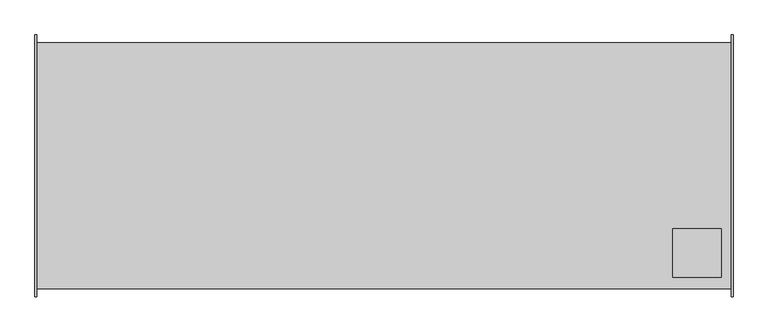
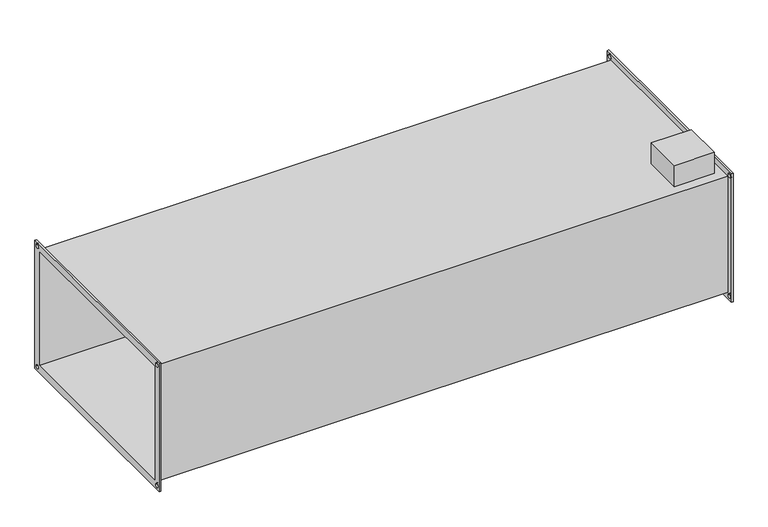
"""IFC4 building model written with IfcOpenShell, lengths in millimetres: proxy geometry."""

import ifcopenshell
import ifcopenshell.guid

model = None  # the IFC model being written
_history = None  # IfcOwnerHistory: only IFC2X3 demands one
_inside = {}  # id of a spatial element -> (the spatial element, [elements in it])
_under = {}  # id of a project, library or spatial element -> (it, [spatial elements below it])
_declared = {}  # id of a project -> (the project, [libraries it declares])
_typed = {}  # id of a type object -> (the type object, [elements of that type])
_made_of = {}  # id of a material, layer set ... -> (it, [elements and type objects made of it])


def new_model(schema):
    """Start an empty IFC model of exactly this schema.

    Asked for "IFC4X3", IfcOpenShell would pick the latest addendum, in which some entities
    have other attributes; the version numbers below select the first issue.
    IFC2X3 requires an IfcOwnerHistory on every rooted entity: one is made here for all.
    """
    global model, _history
    if schema == "IFC4X3":
        model = ifcopenshell.file(schema_version=(4, 3, 0, 0))
    else:
        model = ifcopenshell.file(schema=schema)
    _inside.clear()
    _under.clear()
    _declared.clear()
    _typed.clear()
    _made_of.clear()
    _history = None
    if model.schema == "IFC2X3":
        org = make("IfcOrganization", Name="unknown")
        user = make(
            "IfcPersonAndOrganization",
            ThePerson=make("IfcPerson", FamilyName="unknown"),
            TheOrganization=org,
        )
        app = make(
            "IfcApplication",
            ApplicationDeveloper=org,
            Version="unknown",
            ApplicationFullName="unknown",
            ApplicationIdentifier="unknown",
        )
        _history = make(
            "IfcOwnerHistory",
            OwningUser=user,
            OwningApplication=app,
            ChangeAction="ADDED",
            CreationDate=0,
        )
    return model


def make(cls, **values):
    """One entity of the class cls with the attributes given. An attribute that is None is left unset."""
    return model.create_entity(
        cls, **{name: value for name, value in values.items() if value is not None}
    )


def rooted(cls, **values):
    """An entity with a GlobalId (a new one), such as an element, a storey or a relation."""
    return make(cls, GlobalId=ifcopenshell.guid.new(), OwnerHistory=_history, **values)


def si_unit(unit_type, name, prefix=None):
    """IfcSIUnit, for example si_unit("LENGTHUNIT", "METRE", prefix="MILLI")."""
    return make("IfcSIUnit", UnitType=unit_type, Prefix=prefix, Name=name)


def assignment(units):
    """IfcUnitAssignment: the units of a project."""
    return None if units is None else make("IfcUnitAssignment", Units=units)


def point(xyz):
    """IfcCartesianPoint."""
    return None if xyz is None else make("IfcCartesianPoint", Coordinates=xyz)


def direction(xyz):
    """IfcDirection."""
    return None if xyz is None else make("IfcDirection", DirectionRatios=xyz)


def frame(location, z_axis=None, x_axis=None):
    """IfcAxis2Placement3D, a coordinate frame: its origin and axes. An axis left out is left unset."""
    return make(
        "IfcAxis2Placement3D",
        Location=point(location),
        Axis=direction(z_axis),
        RefDirection=direction(x_axis),
    )


def origin():
    """The frame at (0, 0, 0) with its axes left unset."""
    return frame((0.0, 0.0, 0.0))


def place(relative_to, where):
    """IfcLocalPlacement: puts the frame where relative to a parent placement (None: the world)."""
    return make(
        "IfcLocalPlacement", PlacementRelTo=relative_to, RelativePlacement=where
    )


def context(
    kind, dimensions, precision=None, world=None, true_north=None, identifier=None
):
    """IfcGeometricRepresentationContext, for example the 3D "Model" context."""
    return make(
        "IfcGeometricRepresentationContext",
        ContextIdentifier=identifier,
        ContextType=kind,
        CoordinateSpaceDimension=dimensions,
        Precision=precision,
        WorldCoordinateSystem=world,
        TrueNorth=true_north,
    )


def project(units=None, contexts=None):
    """IfcProject with its units and contexts."""
    return rooted(
        "IfcProject",
        Name="project",
        RepresentationContexts=contexts,
        UnitsInContext=assignment(units),
    )


def spatial(cls, under=None, at=None, **own):
    """A site, building, storey or space (cls), placed at a placement, below another one or the project."""
    s = rooted(cls, ObjectPlacement=at, **own)
    if under is not None:
        _under.setdefault(under.id(), (under, []))[1].append(s)
    return s


def polyline(points):
    """IfcPolyline through the points."""
    return make("IfcPolyline", Points=[point(p) for p in points])


def circle_curve(where, radius):
    """IfcCircle in the frame where."""
    return make("IfcCircle", Position=where, Radius=radius)


def shape(context_of_items, identifier, shape_type, items):
    """IfcShapeRepresentation: the items that make up one representation, for example the "Body"."""
    return make(
        "IfcShapeRepresentation",
        ContextOfItems=context_of_items,
        RepresentationIdentifier=identifier,
        RepresentationType=shape_type,
        Items=items,
    )


def source(mapping_origin, context_of_items, identifier, shape_type, items):
    """IfcRepresentationMap: a shape defined once, which mapped items show again and again."""
    return make(
        "IfcRepresentationMap",
        MappingOrigin=mapping_origin,
        MappedRepresentation=shape(context_of_items, identifier, shape_type, items),
    )


def transform(
    local_origin,
    x_axis=None,
    y_axis=None,
    z_axis=None,
    scale=None,
    scale2=None,
    scale3=None,
    uniform=True,
):
    """IfcCartesianTransformationOperator3D, or its non-uniform kind. x_axis, y_axis, z_axis: its Axis1, 2, 3."""
    if uniform:
        return make(
            "IfcCartesianTransformationOperator3D",
            Axis1=direction(x_axis),
            Axis2=direction(y_axis),
            LocalOrigin=point(local_origin),
            Scale=scale,
            Axis3=direction(z_axis),
        )
    return make(
        "IfcCartesianTransformationOperator3DnonUniform",
        Axis1=direction(x_axis),
        Axis2=direction(y_axis),
        LocalOrigin=point(local_origin),
        Scale=scale,
        Axis3=direction(z_axis),
        Scale2=scale2,
        Scale3=scale3,
    )


def mapped(mapping_source, mapping_target):
    """IfcMappedItem: shows the shape of a source again, moved by a transform."""
    return make(
        "IfcMappedItem", MappingSource=mapping_source, MappingTarget=mapping_target
    )


def made_of(thing, what):
    """Note that an element or type object is made of a material, layer set ...; save() writes the relation."""
    if what is not None:
        _made_of.setdefault(what.id(), (what, []))[1].append(thing)
    return thing


def element(
    cls,
    number,
    at=None,
    inside=None,
    cuts=None,
    type_object=None,
    material=None,
    context=None,
    identifier="Body",
    shape_type=None,
    held_by="IfcProductDefinitionShape",
    body=None,
    shapes=None,
    **own,
):
    """One element of the class cls, such as IfcWall. Its Tag is "e" and its number.

    at: its placement. inside: the storey or other place that contains it. cuts: it is an
    opening in that element (IfcRelVoidsElement). A single representation is given by context,
    identifier, shape_type and body (its items); several are given by shapes. held_by: the class
    of the entity that holds the representations. save() writes the other relations.
    """
    e = rooted(cls, Tag="e%d" % number, ObjectPlacement=at, **own)
    if body is not None:
        shapes = [shape(context, identifier, shape_type, body)]
    if shapes is not None:
        e.Representation = make(held_by, Representations=shapes)
    if inside is not None:
        _inside.setdefault(inside.id(), (inside, []))[1].append(e)
    if cuts is not None:
        rooted(
            "IfcRelVoidsElement", RelatingBuildingElement=cuts, RelatedOpeningElement=e
        )
    if type_object is not None:
        _typed.setdefault(type_object.id(), (type_object, []))[1].append(e)
    return made_of(e, material)


def aggregate(whole, parts):
    """IfcRelAggregates: a whole, such as a stair, and the parts it consists of."""
    return rooted("IfcRelAggregates", RelatingObject=whole, RelatedObjects=parts)


def save(model, path):
    """Write the relations noted so far, then the file.

    IfcRelAggregates (storeys below a building ...), IfcRelContainedInSpatialStructure (elements
    in a storey), IfcRelDefinesByType, IfcRelAssociatesMaterial and IfcRelDeclares: one each for
    every whole, place, type object, material and project.
    """
    for whole, parts in _under.values():
        aggregate(whole, parts)
    for where, things in _inside.values():
        rooted(
            "IfcRelContainedInSpatialStructure",
            RelatedElements=things,
            RelatingStructure=where,
        )
    for kind, things in _typed.values():
        rooted("IfcRelDefinesByType", RelatedObjects=things, RelatingType=kind)
    for what, things in _made_of.values():
        rooted("IfcRelAssociatesMaterial", RelatedObjects=things, RelatingMaterial=what)
    for by, libraries in _declared.values():
        rooted("IfcRelDeclares", RelatingContext=by, RelatedDefinitions=libraries)
    model.write(path)


def plane_surface(at):
    """IfcPlane: the flat surface through the origin of the frame at, square to its z axis."""
    return make("IfcPlane", Position=at)


def revolved_surface(curve, axis_point, axis_direction):
    """IfcSurfaceOfRevolution: the curve turned about the line through axis_point along axis_direction."""
    return make(
        "IfcSurfaceOfRevolution",
        SweptCurve=make("IfcArbitraryOpenProfileDef", ProfileType="CURVE", Curve=curve),
        AxisPosition=make("IfcAxis1Placement", Location=point(axis_point), Axis=direction(axis_direction)),
    )


def advanced_brep(points, edges, surfaces, faces):
    """IfcAdvancedBrep: a solid bounded by faces that lie on surfaces and meet in shared edges.

    An edge is (start, end): straight between two places in points (the first is 0);
    or (start, end, curve); or (start, end, curve, False) where it runs against its curve.
    A face is (place in surfaces, loops), or (place, loops, False) where it looks against
    its surface's normal. A loop lists edges by number (the first is 1), with a minus sign
    where the edge is run from its end to its start. The first loop is the outer one.
    """
    corners = [point(p) for p in points]
    vertices = [make("IfcVertexPoint", VertexGeometry=c) for c in corners]
    made = []
    for start, end, *more in edges:
        made.append(
            make(
                "IfcEdgeCurve",
                EdgeStart=vertices[start],
                EdgeEnd=vertices[end],
                EdgeGeometry=more[0] if more else make("IfcPolyline", Points=[corners[start], corners[end]]),
                SameSense=more[1] if len(more) > 1 else True,
            )
        )
    hull = []
    for where, loops, *sense in faces:
        bounds = []
        for j, loop in enumerate(loops):
            ring = [make("IfcOrientedEdge", EdgeElement=made[abs(k) - 1], Orientation=k > 0) for k in loop]
            bounds.append(
                make(
                    "IfcFaceOuterBound" if j == 0 else "IfcFaceBound",
                    Bound=make("IfcEdgeLoop", EdgeList=ring),
                    Orientation=True,
                )
            )
        hull.append(make("IfcAdvancedFace", Bounds=bounds, FaceSurface=surfaces[where], SameSense=sense[0] if sense else True))
    return make("IfcAdvancedBrep", Outer=make("IfcClosedShell", CfsFaces=hull))


def mechanical_equipment_c1b69434(model_context):
    return source(origin(), model_context, "Body", "AdvancedBrep", [
        advanced_brep(
        [(716.0, -254.0, 154.0), (-716.0, -254.0, 154.0), (-716.0, -254.0, -154.0), (716.0, -254.0, -154.0), (-716.0, 254.0, -154.0), (716.0, 254.0, -154.0), (-716.0, 254.0, 154.0), (716.0, 254.0, 154.0), (596.0, -130.0, 154.0), (696.0, -130.0, 154.0), (696.0, -230.0, 154.0), (596.0, -230.0, 154.0), (696.0, -130.0, 210.0), (596.0, -130.0, 210.0), (596.0, -230.0, 210.0), (696.0, -230.0, 210.0), (-720.0, -270.0, 170.0), (-720.0, 270.0, 170.0), (-720.0, 270.0, -170.0), (-720.0, -270.0, -170.0), (-720.0, -250.0, 150.0), (-720.0, -250.0, -150.0), (-720.0, 250.0, -150.0), (-720.0, 250.0, 150.0), (-720.0, -265.0, 160.0), (-720.0, -255.0, 160.0), (-720.0, -265.0, -160.0), (-720.0, -255.0, -160.0), (-720.0, 255.0, -160.0), (-720.0, 265.0, -160.0), (-720.0, 255.0, 160.0), (-720.0, 265.0, 160.0), (-716.0, -270.0, 170.0), (-716.0, -270.0, -170.0), (-716.0, 270.0, -170.0), (-716.0, 270.0, 170.0), (-716.0, -255.0, 160.0), (-716.0, -265.0, 160.0), (-716.0, -255.0, -160.0), (-716.0, -265.0, -160.0), (-716.0, 265.0, -160.0), (-716.0, 255.0, -160.0), (-716.0, 265.0, 160.0), (-716.0, 255.0, 160.0), (716.0, 270.0, 170.0), (716.0, 270.0, -170.0), (716.0, -270.0, -170.0), (716.0, -270.0, 170.0), (716.0, -265.0, 160.0), (716.0, -255.0, 160.0), (716.0, -265.0, -160.0), (716.0, -255.0, -160.0), (716.0, 255.0, -160.0), (716.0, 265.0, -160.0), (716.0, 255.0, 160.0), (716.0, 265.0, 160.0), (720.0, 270.0, 170.0), (720.0, -270.0, 170.0), (720.0, -270.0, -170.0), (720.0, 270.0, -170.0), (720.0, 250.0, 150.0), (720.0, 250.0, -150.0), (720.0, -250.0, -150.0), (720.0, -250.0, 150.0), (720.0, -255.0, 160.0), (720.0, -265.0, 160.0), (720.0, -255.0, -160.0), (720.0, -265.0, -160.0), (720.0, 265.0, -160.0), (720.0, 255.0, -160.0), (720.0, 265.0, 160.0), (720.0, 255.0, 160.0)],
        [
            (0, 1),
            (1, 2),
            (2, 3),
            (3, 0),
            (2, 4),
            (4, 5),
            (5, 3),
            (4, 6),
            (6, 7),
            (7, 5),
            (0, 7),
            (6, 1),
            (8, 9),
            (9, 10),
            (10, 11),
            (11, 8),
            (12, 13),
            (13, 14),
            (14, 15),
            (15, 12),
            (12, 9),
            (8, 13),
            (11, 14),
            (10, 15),
            (16, 17),
            (17, 18),
            (18, 19),
            (19, 16),
            (20, 21),
            (21, 22),
            (22, 23),
            (23, 20),
            (24, 25, circle_curve(frame((-720.0, -260.0, 160.0), z_axis=(1.0, 0.0, 0.0), x_axis=(0.0, 1.0, 0.0)), 5.0)),
            (25, 24, circle_curve(frame((-720.0, -260.0, 160.0), z_axis=(1.0, 0.0, 0.0), x_axis=(0.0, 1.0, 0.0)), 5.0)),
            (26, 27, circle_curve(frame((-720.0, -260.0, -160.0), z_axis=(1.0, 0.0, 0.0), x_axis=(0.0, 1.0, 0.0)), 5.0)),
            (27, 26, circle_curve(frame((-720.0, -260.0, -160.0), z_axis=(1.0, 0.0, 0.0), x_axis=(0.0, 1.0, 0.0)), 5.0)),
            (28, 29, circle_curve(frame((-720.0, 260.0, -160.0), z_axis=(1.0, 0.0, 0.0), x_axis=(0.0, 1.0, 0.0)), 5.0)),
            (29, 28, circle_curve(frame((-720.0, 260.0, -160.0), z_axis=(1.0, 0.0, 0.0), x_axis=(0.0, 1.0, 0.0)), 5.0)),
            (30, 31, circle_curve(frame((-720.0, 260.0, 160.0), z_axis=(1.0, 0.0, 0.0), x_axis=(0.0, 1.0, 0.0)), 5.0)),
            (31, 30, circle_curve(frame((-720.0, 260.0, 160.0), z_axis=(1.0, 0.0, 0.0), x_axis=(0.0, 1.0, 0.0)), 5.0)),
            (32, 33),
            (33, 34),
            (34, 35),
            (35, 32),
            (36, 37, circle_curve(frame((-716.0, -260.0, 160.0), z_axis=(-1.0, 0.0, 0.0), x_axis=(0.0, 1.0, 0.0)), 5.0)),
            (37, 36, circle_curve(frame((-716.0, -260.0, 160.0), z_axis=(-1.0, 0.0, 0.0), x_axis=(0.0, 1.0, 0.0)), 5.0)),
            (38, 39, circle_curve(frame((-716.0, -260.0, -160.0), z_axis=(-1.0, 0.0, 0.0), x_axis=(0.0, 1.0, 0.0)), 5.0)),
            (39, 38, circle_curve(frame((-716.0, -260.0, -160.0), z_axis=(-1.0, 0.0, 0.0), x_axis=(0.0, 1.0, 0.0)), 5.0)),
            (40, 41, circle_curve(frame((-716.0, 260.0, -160.0), z_axis=(-1.0, 0.0, 0.0), x_axis=(0.0, 1.0, 0.0)), 5.0)),
            (41, 40, circle_curve(frame((-716.0, 260.0, -160.0), z_axis=(-1.0, 0.0, 0.0), x_axis=(0.0, 1.0, 0.0)), 5.0)),
            (42, 43, circle_curve(frame((-716.0, 260.0, 160.0), z_axis=(-1.0, 0.0, 0.0), x_axis=(0.0, 1.0, 0.0)), 5.0)),
            (43, 42, circle_curve(frame((-716.0, 260.0, 160.0), z_axis=(-1.0, 0.0, 0.0), x_axis=(0.0, 1.0, 0.0)), 5.0)),
            (19, 33),
            (32, 16),
            (18, 34),
            (17, 35),
            (44, 45),
            (45, 46),
            (46, 47),
            (47, 44),
            (48, 49, circle_curve(frame((716.0, -260.0, 160.0), z_axis=(1.0, 0.0, 0.0), x_axis=(0.0, 1.0, 0.0)), 5.0)),
            (49, 48, circle_curve(frame((716.0, -260.0, 160.0), z_axis=(1.0, 0.0, 0.0), x_axis=(0.0, 1.0, 0.0)), 5.0)),
            (50, 51, circle_curve(frame((716.0, -260.0, -160.0), z_axis=(1.0, 0.0, 0.0), x_axis=(0.0, 1.0, 0.0)), 5.0)),
            (51, 50, circle_curve(frame((716.0, -260.0, -160.0), z_axis=(1.0, 0.0, 0.0), x_axis=(0.0, 1.0, 0.0)), 5.0)),
            (52, 53, circle_curve(frame((716.0, 260.0, -160.0), z_axis=(1.0, 0.0, 0.0), x_axis=(0.0, 1.0, 0.0)), 5.0)),
            (53, 52, circle_curve(frame((716.0, 260.0, -160.0), z_axis=(1.0, 0.0, 0.0), x_axis=(0.0, 1.0, 0.0)), 5.0)),
            (54, 55, circle_curve(frame((716.0, 260.0, 160.0), z_axis=(1.0, 0.0, 0.0), x_axis=(0.0, 1.0, 0.0)), 5.0)),
            (55, 54, circle_curve(frame((716.0, 260.0, 160.0), z_axis=(1.0, 0.0, 0.0), x_axis=(0.0, 1.0, 0.0)), 5.0)),
            (56, 57),
            (57, 58),
            (58, 59),
            (59, 56),
            (60, 61),
            (61, 62),
            (62, 63),
            (63, 60),
            (64, 65, circle_curve(frame((720.0, -260.0, 160.0), z_axis=(-1.0, 0.0, 0.0), x_axis=(0.0, 1.0, 0.0)), 5.0)),
            (65, 64, circle_curve(frame((720.0, -260.0, 160.0), z_axis=(-1.0, 0.0, 0.0), x_axis=(0.0, 1.0, 0.0)), 5.0)),
            (66, 67, circle_curve(frame((720.0, -260.0, -160.0), z_axis=(-1.0, 0.0, 0.0), x_axis=(0.0, 1.0, 0.0)), 5.0)),
            (67, 66, circle_curve(frame((720.0, -260.0, -160.0), z_axis=(-1.0, 0.0, 0.0), x_axis=(0.0, 1.0, 0.0)), 5.0)),
            (68, 69, circle_curve(frame((720.0, 260.0, -160.0), z_axis=(-1.0, 0.0, 0.0), x_axis=(0.0, 1.0, 0.0)), 5.0)),
            (69, 68, circle_curve(frame((720.0, 260.0, -160.0), z_axis=(-1.0, 0.0, 0.0), x_axis=(0.0, 1.0, 0.0)), 5.0)),
            (70, 71, circle_curve(frame((720.0, 260.0, 160.0), z_axis=(-1.0, 0.0, 0.0), x_axis=(0.0, 1.0, 0.0)), 5.0)),
            (71, 70, circle_curve(frame((720.0, 260.0, 160.0), z_axis=(-1.0, 0.0, 0.0), x_axis=(0.0, 1.0, 0.0)), 5.0)),
            (47, 57),
            (56, 44),
            (46, 58),
            (45, 59),
            (23, 60),
            (63, 20),
            (22, 61),
            (21, 62),
            (24, 37),
            (36, 25),
            (48, 65),
            (64, 49),
            (26, 39),
            (38, 27),
            (50, 67),
            (66, 51),
            (28, 41),
            (40, 29),
            (52, 69),
            (68, 53),
            (30, 43),
            (42, 31),
            (54, 71),
            (70, 55),
        ],
        [
            plane_surface(frame((716.0, -254.0, 154.0), z_axis=(0.0, -1.0, 0.0), x_axis=(-1.0, 0.0, 0.0))),
            plane_surface(frame((716.0, -254.0, -154.0), z_axis=(0.0, 0.0, -1.0), x_axis=(-1.0, 0.0, 0.0))),
            plane_surface(frame((716.0, 254.0, -154.0), z_axis=(0.0, 1.0, 0.0), x_axis=(-1.0, 0.0, 0.0))),
            plane_surface(frame((716.0, 254.0, 154.0), z_axis=(0.0, 0.0, 1.0), x_axis=(-1.0, 0.0, 0.0))),
            plane_surface(frame((596.0, -130.0, 210.0), z_axis=(0.0, 0.0, 1.0), x_axis=(-1.0, 0.0, 0.0))),
            plane_surface(frame((696.0, -130.0, 210.0), z_axis=(0.0, 1.0, 0.0), x_axis=(0.0, 0.0, -1.0))),
            plane_surface(frame((596.0, -130.0, 210.0), z_axis=(-1.0, 0.0, 0.0), x_axis=(0.0, 0.0, -1.0))),
            plane_surface(frame((596.0, -230.0, 210.0), z_axis=(0.0, -1.0, 0.0), x_axis=(0.0, 0.0, -1.0))),
            plane_surface(frame((696.0, -230.0, 210.0), z_axis=(1.0, 0.0, 0.0), x_axis=(0.0, 0.0, -1.0))),
            plane_surface(frame((-720.0, -270.0, 170.0), z_axis=(-1.0, 0.0, 0.0), x_axis=(0.0, 0.0, 1.0))),
            plane_surface(frame((-716.0, -270.0, 170.0), z_axis=(1.0, 0.0, 0.0), x_axis=(0.0, 0.0, -1.0))),
            plane_surface(frame((-716.0, -270.0, 170.0), z_axis=(0.0, -1.0, 0.0), x_axis=(-1.0, 0.0, 0.0))),
            plane_surface(frame((-716.0, -270.0, -170.0), z_axis=(0.0, 0.0, -1.0), x_axis=(-1.0, 0.0, 0.0))),
            plane_surface(frame((-716.0, 270.0, -170.0), z_axis=(0.0, 1.0, 0.0), x_axis=(-1.0, 0.0, 0.0))),
            plane_surface(frame((-716.0, 270.0, 170.0), z_axis=(0.0, 0.0, 1.0), x_axis=(-1.0, 0.0, 0.0))),
            plane_surface(frame((716.0, 250.0, -150.0), z_axis=(-1.0, 0.0, 0.0), x_axis=(0.0, 0.0, 1.0))),
            plane_surface(frame((720.0, 250.0, -150.0), z_axis=(1.0, 0.0, 0.0), x_axis=(0.0, 0.0, -1.0))),
            plane_surface(frame((720.0, 270.0, 170.0), z_axis=(0.0, 0.0, 1.0), x_axis=(-1.0, 0.0, 0.0))),
            plane_surface(frame((720.0, -270.0, 170.0), z_axis=(0.0, -1.0, 0.0), x_axis=(-1.0, 0.0, 0.0))),
            plane_surface(frame((720.0, -270.0, -170.0), z_axis=(0.0, 0.0, -1.0), x_axis=(-1.0, 0.0, 0.0))),
            plane_surface(frame((720.0, 270.0, -170.0), z_axis=(0.0, 1.0, 0.0), x_axis=(-1.0, 0.0, 0.0))),
            plane_surface(frame((-716.0, -250.0, 150.0), z_axis=(0.0, 0.0, -1.0), x_axis=(-1.0, 0.0, 0.0))),
            plane_surface(frame((-716.0, 250.0, 150.0), z_axis=(0.0, -1.0, 0.0), x_axis=(-1.0, 0.0, 0.0))),
            plane_surface(frame((-716.0, 250.0, -150.0), z_axis=(0.0, 0.0, 1.0), x_axis=(-1.0, 0.0, 0.0))),
            plane_surface(frame((-716.0, -250.0, -150.0), z_axis=(0.0, 1.0, 0.0), x_axis=(-1.0, 0.0, 0.0))),
            revolved_surface(polyline([(-716.0, -255.0, 160.0), (-720.0, -255.0, 160.0)]), (-720.0, -260.0, 160.0), (1.0, 0.0, 0.0)),
            revolved_surface(polyline([(720.0, -255.0, 160.0), (716.0, -255.0, 160.0)]), (-720.0, -260.0, 160.0), (1.0, 0.0, 0.0)),
            revolved_surface(polyline([(-716.0, -255.0, -160.0), (-720.0, -255.0, -160.0)]), (0.0, -260.0, -160.0), (1.0, 0.0, 0.0)),
            revolved_surface(polyline([(720.0, -255.0, -160.0), (716.0, -255.0, -160.0)]), (0.0, -260.0, -160.0), (1.0, 0.0, 0.0)),
            revolved_surface(polyline([(-716.0, 265.0, -160.0), (-720.0, 265.0, -160.0)]), (0.0, 260.0, -160.0), (1.0, 0.0, 0.0)),
            revolved_surface(polyline([(720.0, 265.0, -160.0), (716.0, 265.0, -160.0)]), (0.0, 260.0, -160.0), (1.0, 0.0, 0.0)),
            revolved_surface(polyline([(-716.0, 265.0, 160.0), (-720.0, 265.0, 160.0)]), (0.0, 260.0, 160.0), (1.0, 0.0, 0.0)),
            revolved_surface(polyline([(720.0, 265.0, 160.0), (716.0, 265.0, 160.0)]), (0.0, 260.0, 160.0), (1.0, 0.0, 0.0)),
        ],
        [
            (0, [[1, 2, 3, 4]]),
            (1, [[-3, 5, 6, 7]]),
            (2, [[-6, 8, 9, 10]]),
            (3, [[-1, 11, -9, 12], [13, 14, 15, 16]]),
            (4, [[17, 18, 19, 20]]),
            (5, [[-17, 21, -13, 22]]),
            (6, [[-18, -22, -16, 23]]),
            (7, [[-19, -23, -15, 24]]),
            (8, [[-20, -24, -14, -21]]),
            (9, [[25, 26, 27, 28], [29, 30, 31, 32], [33, 34], [35, 36], [37, 38], [39, 40]]),
            (10, [[41, 42, 43, 44], [-2, -12, -8, -5], [45, 46], [47, 48], [49, 50], [51, 52]]),
            (11, [[-28, 53, -41, 54]]),
            (12, [[-27, 55, -42, -53]]),
            (13, [[-26, 56, -43, -55]]),
            (14, [[-25, -54, -44, -56]]),
            (15, [[57, 58, 59, 60], [-4, -7, -10, -11], [61, 62], [63, 64], [65, 66], [67, 68]]),
            (16, [[69, 70, 71, 72], [73, 74, 75, 76], [77, 78], [79, 80], [81, 82], [83, 84]]),
            (17, [[-60, 85, -69, 86]]),
            (18, [[-59, 87, -70, -85]]),
            (19, [[-58, 88, -71, -87]]),
            (20, [[-57, -86, -72, -88]]),
            (21, [[-32, 89, -76, 90]]),
            (22, [[-31, 91, -73, -89]]),
            (23, [[-30, 92, -74, -91]]),
            (24, [[-29, -90, -75, -92]]),
            (25, [[93, -45, 94, -33]]),
            (26, [[95, -77, 96, -61]]),
            (25, [[-93, -34, -94, -46]]),
            (26, [[-95, -62, -96, -78]]),
            (27, [[97, -47, 98, -35]]),
            (28, [[99, -79, 100, -63]]),
            (27, [[-97, -36, -98, -48]]),
            (28, [[-99, -64, -100, -80]]),
            (29, [[101, -49, 102, -37]]),
            (30, [[103, -81, 104, -65]]),
            (29, [[-101, -38, -102, -50]]),
            (30, [[-103, -66, -104, -82]]),
            (31, [[105, -51, 106, -39]]),
            (32, [[107, -83, 108, -67]]),
            (31, [[-105, -40, -106, -52]]),
            (32, [[-107, -68, -108, -84]]),
        ],
    ),
    ])


if __name__ == "__main__":
    model = new_model("IFC4")
    model_context = context("Model", 3, world=origin())
    ifc_project = project(units=[si_unit("LENGTHUNIT", "METRE", prefix="MILLI")], contexts=[model_context])
    site = spatial("IfcSite", under=ifc_project)
    building = spatial("IfcBuilding", under=site)
    placement = place(None, origin())
    mechanical_equipment_shape = mechanical_equipment_c1b69434(model_context)
    element("IfcBuildingElementProxy", 1, Name="Mechanical Equipment", at=placement, inside=building, context=model_context, shape_type="MappedRepresentation", body=[
        mapped(mechanical_equipment_shape, transform((0.0, 0.0, 0.0), x_axis=(1.0, 0.0, 0.0), y_axis=(0.0, 1.0, 0.0), z_axis=(0.0, 0.0, 1.0))),
    ])
    save(model, "model.ifc")
